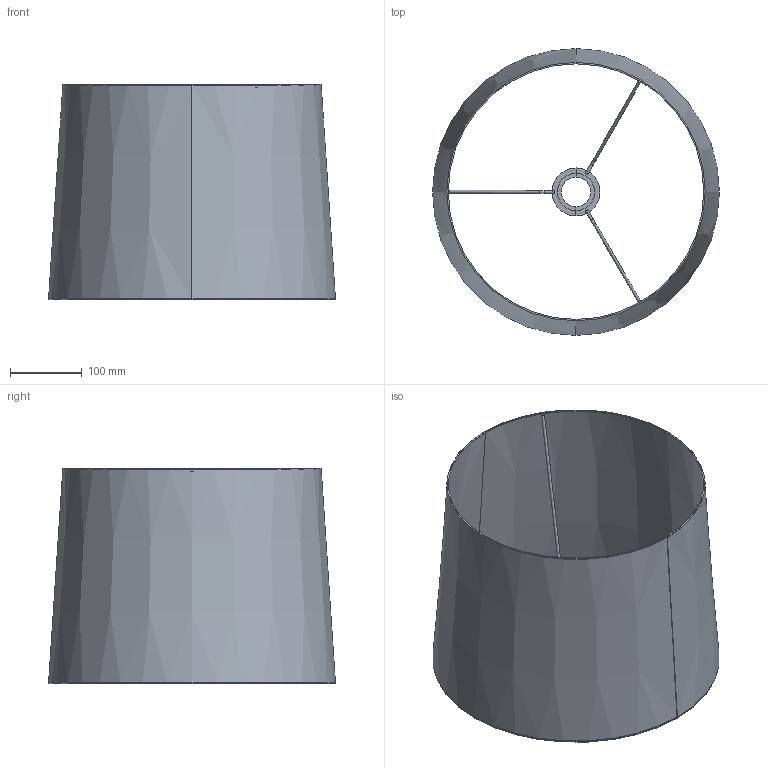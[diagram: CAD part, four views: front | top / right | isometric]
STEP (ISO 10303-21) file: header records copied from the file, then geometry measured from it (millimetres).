
FILE_DESCRIPTION(/* description */ (''),/* implementation_level */ '2;1');
FILE_NAME(/* name */ 'C:\Users\francosartori\Documents\Modelos\01_Digitalizados\0_Pantallas\03_Publicación\2P013X\2P0131.stp',/* time_stamp */ '2020-05-29T14:02:24+02:00',/* author */ ('FrancoSartori'),/* organization */ (''),/* preprocessor_version */ 'ST-DEVELOPER v18.1',/* originating_system */ 'AutoCAD Mechanical',/* authorisation */ '');
FILE_SCHEMA (('AUTOMOTIVE_DESIGN { 1 0 10303 214 3 1 1 }'));
Length unit declared in the file: millimetre
Products named in the file (2): Product; 2P013X_SHADE - Shade-449192-_3D_
Assembly tree (1 placements, depth 2):
  Product
    2P013X_SHADE - Shade-449192-_3D_
Bounding box: 399.87 x 399.87 x 299.99 mm (x, y, z)
Volume: 588353.9 mm3; surface area: 1447914 mm2
Topology: 7 solids, 7 shells, 56 faces, 106 edges, 56 vertices
Faces by surface type: cylinder 20, plane 18, torus 10, cone 8
Entity records: 2357 total; most frequent: CARTESIAN_POINT 1193, DIRECTION 246, ORIENTED_EDGE 212, EDGE_CURVE 106, AXIS2_PLACEMENT_3D 103, FACE_OUTER_BOUND 56, EDGE_LOOP 56, VERTEX_POINT 56
